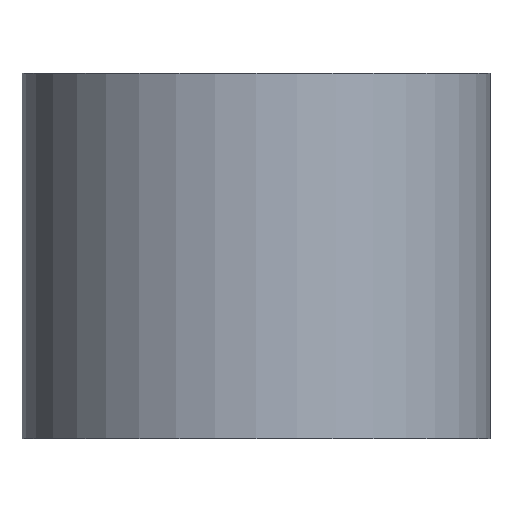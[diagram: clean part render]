
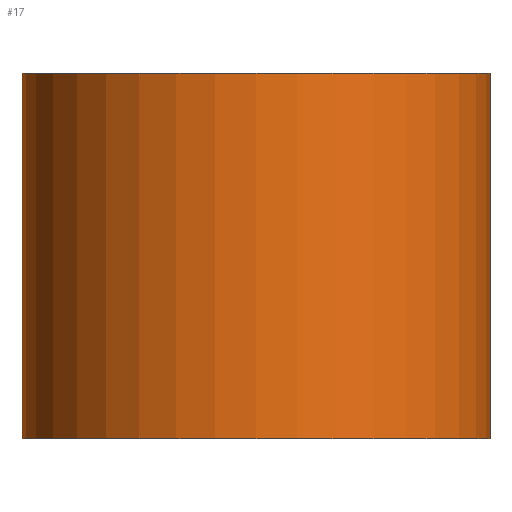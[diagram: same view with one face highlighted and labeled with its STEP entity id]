
A CAD part, front view. The second image highlights one B-rep face of the part: STEP entity #17.
In plain terms, the highlighted cylindrical face has radius 3.2 mm (diameter 6.4 mm), a full revolution.
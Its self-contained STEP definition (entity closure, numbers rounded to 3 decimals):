
#17 = ADVANCED_FACE('',(#18),#32,.T.);
#18 = FACE_BOUND('',#19,.F.);
#19 = EDGE_LOOP('',(#20,#50,#77,#78));
#20 = ORIENTED_EDGE('',*,*,#21,.T.);
#21 = EDGE_CURVE('',#22,#24,#26,.T.);
#22 = VERTEX_POINT('',#23);
#23 = CARTESIAN_POINT('',(3.2,0.,0.));
#24 = VERTEX_POINT('',#25);
#25 = CARTESIAN_POINT('',(3.2,0.,5.));
#26 = SEAM_CURVE('',#27,(#31,#43),.PCURVE_S1.);
#27 = LINE('',#28,#29);
#28 = CARTESIAN_POINT('',(3.2,0.,0.));
#29 = VECTOR('',#30,1.);
#30 = DIRECTION('',(0.,0.,1.));
#31 = PCURVE('',#32,#37);
#32 = CYLINDRICAL_SURFACE('',#33,3.2);
#33 = AXIS2_PLACEMENT_3D('',#34,#35,#36);
#34 = CARTESIAN_POINT('',(0.,0.,0.));
#35 = DIRECTION('',(-0.,-0.,-1.));
#36 = DIRECTION('',(1.,0.,0.));
#37 = DEFINITIONAL_REPRESENTATION('',(#38),#42);
#38 = LINE('',#39,#40);
#39 = CARTESIAN_POINT('',(-0.,0.));
#40 = VECTOR('',#41,1.);
#41 = DIRECTION('',(-0.,-1.));
#42 = ( GEOMETRIC_REPRESENTATION_CONTEXT(2) 
PARAMETRIC_REPRESENTATION_CONTEXT() REPRESENTATION_CONTEXT('2D SPACE',''
  ) );
#43 = PCURVE('',#32,#44);
#44 = DEFINITIONAL_REPRESENTATION('',(#45),#49);
#45 = LINE('',#46,#47);
#46 = CARTESIAN_POINT('',(-6.283,0.));
#47 = VECTOR('',#48,1.);
#48 = DIRECTION('',(-0.,-1.));
#49 = ( GEOMETRIC_REPRESENTATION_CONTEXT(2) 
PARAMETRIC_REPRESENTATION_CONTEXT() REPRESENTATION_CONTEXT('2D SPACE',''
  ) );
#50 = ORIENTED_EDGE('',*,*,#51,.T.);
#51 = EDGE_CURVE('',#24,#24,#52,.T.);
#52 = SURFACE_CURVE('',#53,(#58,#65),.PCURVE_S1.);
#53 = CIRCLE('',#54,3.2);
#54 = AXIS2_PLACEMENT_3D('',#55,#56,#57);
#55 = CARTESIAN_POINT('',(0.,0.,5.));
#56 = DIRECTION('',(0.,0.,1.));
#57 = DIRECTION('',(1.,0.,0.));
#58 = PCURVE('',#32,#59);
#59 = DEFINITIONAL_REPRESENTATION('',(#60),#64);
#60 = LINE('',#61,#62);
#61 = CARTESIAN_POINT('',(-0.,-5.));
#62 = VECTOR('',#63,1.);
#63 = DIRECTION('',(-1.,0.));
#64 = ( GEOMETRIC_REPRESENTATION_CONTEXT(2) 
PARAMETRIC_REPRESENTATION_CONTEXT() REPRESENTATION_CONTEXT('2D SPACE',''
  ) );
#65 = PCURVE('',#66,#71);
#66 = PLANE('',#67);
#67 = AXIS2_PLACEMENT_3D('',#68,#69,#70);
#68 = CARTESIAN_POINT('',(0.,0.,5.));
#69 = DIRECTION('',(0.,0.,1.));
#70 = DIRECTION('',(1.,0.,-0.));
#71 = DEFINITIONAL_REPRESENTATION('',(#72),#76);
#72 = CIRCLE('',#73,3.2);
#73 = AXIS2_PLACEMENT_2D('',#74,#75);
#74 = CARTESIAN_POINT('',(0.,0.));
#75 = DIRECTION('',(1.,0.));
#76 = ( GEOMETRIC_REPRESENTATION_CONTEXT(2) 
PARAMETRIC_REPRESENTATION_CONTEXT() REPRESENTATION_CONTEXT('2D SPACE',''
  ) );
#77 = ORIENTED_EDGE('',*,*,#21,.F.);
#78 = ORIENTED_EDGE('',*,*,#79,.F.);
#79 = EDGE_CURVE('',#22,#22,#80,.T.);
#80 = SURFACE_CURVE('',#81,(#86,#93),.PCURVE_S1.);
#81 = CIRCLE('',#82,3.2);
#82 = AXIS2_PLACEMENT_3D('',#83,#84,#85);
#83 = CARTESIAN_POINT('',(0.,0.,0.));
#84 = DIRECTION('',(0.,0.,1.));
#85 = DIRECTION('',(1.,0.,0.));
#86 = PCURVE('',#32,#87);
#87 = DEFINITIONAL_REPRESENTATION('',(#88),#92);
#88 = LINE('',#89,#90);
#89 = CARTESIAN_POINT('',(-0.,0.));
#90 = VECTOR('',#91,1.);
#91 = DIRECTION('',(-1.,0.));
#92 = ( GEOMETRIC_REPRESENTATION_CONTEXT(2) 
PARAMETRIC_REPRESENTATION_CONTEXT() REPRESENTATION_CONTEXT('2D SPACE',''
  ) );
#93 = PCURVE('',#94,#99);
#94 = PLANE('',#95);
#95 = AXIS2_PLACEMENT_3D('',#96,#97,#98);
#96 = CARTESIAN_POINT('',(0.,0.,0.));
#97 = DIRECTION('',(0.,0.,1.));
#98 = DIRECTION('',(1.,0.,-0.));
#99 = DEFINITIONAL_REPRESENTATION('',(#100),#104);
#100 = CIRCLE('',#101,3.2);
#101 = AXIS2_PLACEMENT_2D('',#102,#103);
#102 = CARTESIAN_POINT('',(0.,0.));
#103 = DIRECTION('',(1.,0.));
#104 = ( GEOMETRIC_REPRESENTATION_CONTEXT(2) 
PARAMETRIC_REPRESENTATION_CONTEXT() REPRESENTATION_CONTEXT('2D SPACE',''
  ) );
